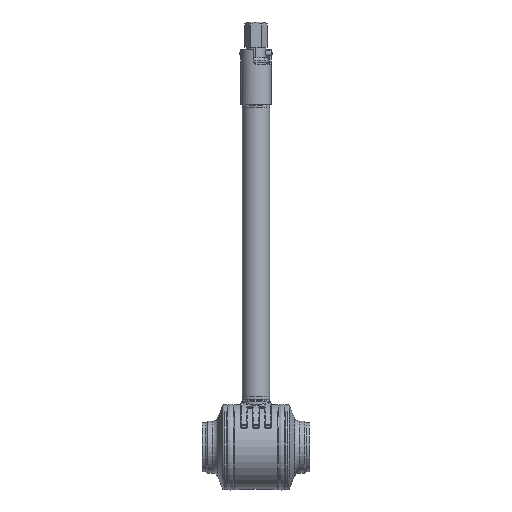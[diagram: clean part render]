
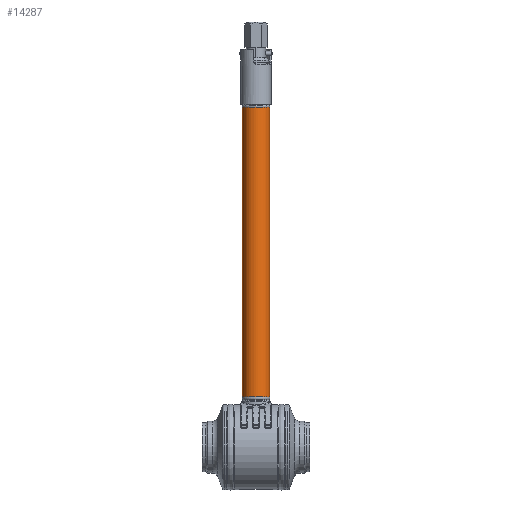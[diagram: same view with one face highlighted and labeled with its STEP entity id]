
A CAD part, front view. The second image highlights one B-rep face of the part: STEP entity #14287.
In plain terms, the highlighted cylindrical face has radius 13.45 mm (diameter 26.9 mm), a partial arc.
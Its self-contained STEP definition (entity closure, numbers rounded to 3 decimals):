
#4096=CARTESIAN_POINT('',(0.,0.,49.6));
#4097=DIRECTION('',(0.,0.,-1.));
#4098=DIRECTION('',(1.,0.,0.));
#4099=AXIS2_PLACEMENT_3D('',#4096,#4097,#4098);
#4101=CARTESIAN_POINT('',(0.,0.,335.019));
#4102=DIRECTION('',(0.,0.,-1.));
#4103=DIRECTION('',(1.,0.,0.));
#4104=AXIS2_PLACEMENT_3D('',#4101,#4102,#4103);
#4111=DIRECTION('',(0.,0.,1.));
#4112=VECTOR('',#4111,285.419);
#4113=CARTESIAN_POINT('',(13.45,0.,49.6));
#4114=LINE('',#4113,#4112);
#4120=DIRECTION('',(0.,0.,1.));
#4121=VECTOR('',#4120,285.419);
#4122=CARTESIAN_POINT('',(-13.45,0.,49.6));
#4123=LINE('',#4122,#4121);
#7130=CARTESIAN_POINT('',(13.45,0.,335.019));
#7131=CARTESIAN_POINT('',(-13.45,0.,335.019));
#7132=VERTEX_POINT('',#7130);
#7133=VERTEX_POINT('',#7131);
#7142=CARTESIAN_POINT('',(13.45,0.,49.6));
#7143=CARTESIAN_POINT('',(-13.45,0.,49.6));
#7144=VERTEX_POINT('',#7142);
#7145=VERTEX_POINT('',#7143);
#14273=CARTESIAN_POINT('',(0.,0.,352.5));
#14274=DIRECTION('',(0.,0.,-1.));
#14275=DIRECTION('',(-1.,0.,0.));
#14276=AXIS2_PLACEMENT_3D('',#14273,#14274,#14275);
#14277=CYLINDRICAL_SURFACE('',#14276,13.45);
#14278=ORIENTED_EDGE('',*,*,#14248,.T.);
#14280=ORIENTED_EDGE('',*,*,#14279,.T.);
#14282=ORIENTED_EDGE('',*,*,#14281,.F.);
#14284=ORIENTED_EDGE('',*,*,#14283,.F.);
#14285=EDGE_LOOP('',(#14278,#14280,#14282,#14284));
#14286=FACE_OUTER_BOUND('',#14285,.F.);
#4100=CIRCLE('',#4099,13.45);
#4105=CIRCLE('',#4104,13.45);
#14248=EDGE_CURVE('',#7144,#7145,#4100,.T.);
#14279=EDGE_CURVE('',#7145,#7133,#4123,.T.);
#14281=EDGE_CURVE('',#7132,#7133,#4105,.T.);
#14283=EDGE_CURVE('',#7144,#7132,#4114,.T.);
#14287=ADVANCED_FACE('',(#14286),#14277,.T.);
